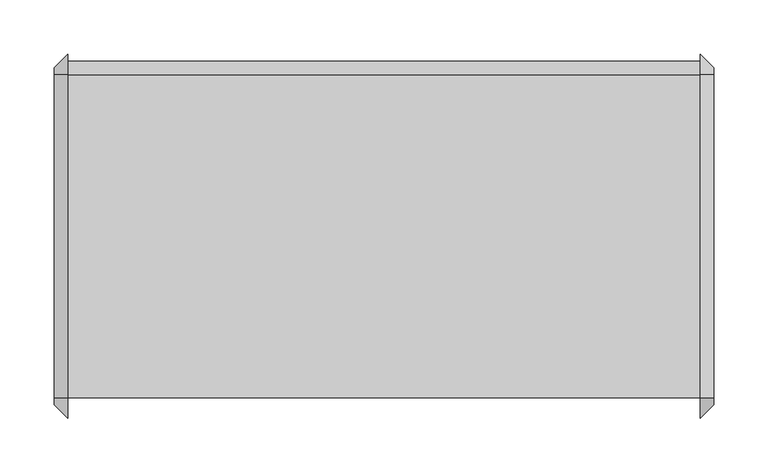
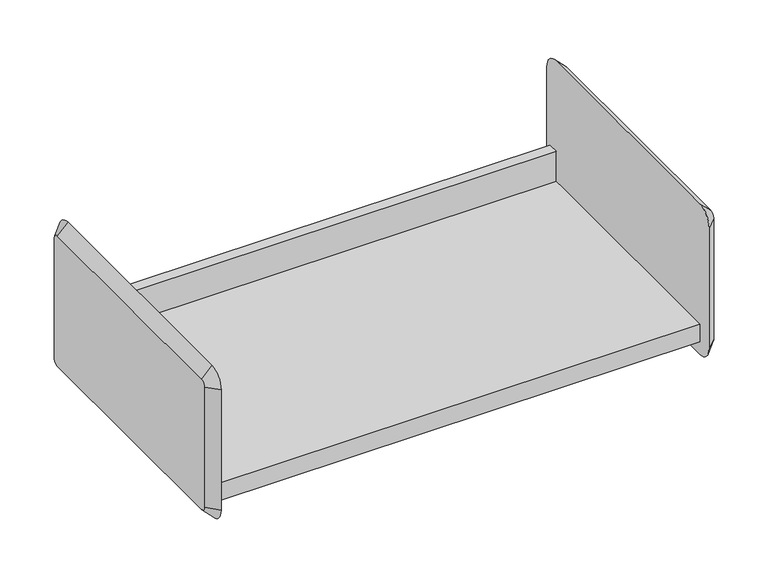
"""IFC4 building model written with IfcOpenShell, lengths in millimetres: furniture geometry."""

from ifc_helpers import new_model, si_unit, frame, origin, place, context, project, spatial, polyline, circle_curve, outline, extrude, source, transform, mapped, element, save
from ifc_brep_helpers import plane_surface, revolved_surface, advanced_brep


def furniture_899296cf(model_context):
    return source(origin(), model_context, "Body", "SolidModel", [
        extrude(outline(polyline([(-136.525, 1558.925), (161.925, 1558.925), (161.925, 1597.025), (174.625, 1597.025), (174.625, 1593.85), (165.1, 1593.85), (165.1, 1555.75), (-133.35, 1555.75), (-133.35, 1536.7), (-136.525, 1536.7), (-136.525, 1558.925)])), frame((-416.0420045, 0.0, 0.0), z_axis=(1.0, 0.0, 0.0), x_axis=(0.0, 1.0, 0.0)), (0.0, 0.0, 1.0), 584.2),
        advanced_brep(
        [(180.8579955, 161.925, 1698.625), (180.8579955, -136.525, 1698.625), (180.8579955, -142.875, 1692.275), (180.8579955, -142.875, 1539.875), (180.8579955, -136.525, 1533.525), (180.8579955, 161.925, 1533.525), (180.8579955, 168.275, 1539.875), (180.8579955, 168.275, 1692.275), (168.1579955, 161.925, 1711.325), (168.1579955, 180.975, 1692.275), (168.1579955, 180.975, 1539.875), (168.1579955, 161.925, 1520.825), (168.1579955, -136.525, 1520.825), (168.1579955, -155.575, 1539.875), (168.1579955, -155.575, 1692.275), (168.1579955, -136.525, 1711.325)],
        [
            (0, 1),
            (1, 2, circle_curve(frame((180.8579955, -136.525, 1692.275), z_axis=(1.0, 2.0730084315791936e-12, -2.1742607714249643e-12), x_axis=(2.1742640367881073e-12, 0.0, 1.0)), 6.35)),
            (2, 3),
            (3, 4, circle_curve(frame((180.8579955, -136.525, 1539.875), z_axis=(1.0, 2.062350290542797e-12, 2.025046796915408e-12), x_axis=(2.062316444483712e-12, -1.0, 0.0)), 6.35)),
            (4, 5),
            (5, 6, circle_curve(frame((180.8579955, 161.925, 1539.875), z_axis=(1.0, 2.088995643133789e-12, -2.1103119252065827e-12), x_axis=(-2.1103612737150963e-12, 0.0, -1.0)), 6.35)),
            (6, 7),
            (7, 0, circle_curve(frame((180.8579955, 161.925, 1692.275), z_axis=(1.0, 2.0783375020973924e-12, 1.9824142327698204e-12), x_axis=(-2.0783313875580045e-12, 1.0, 0.0)), 6.35)),
            (8, 9, circle_curve(frame((168.1579955, 161.925, 1692.275), z_axis=(-1.0, -2.0783375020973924e-12, -1.9824142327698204e-12), x_axis=(-2.0783313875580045e-12, 1.0, 0.0)), 19.05)),
            (9, 10),
            (10, 11, circle_curve(frame((168.1579955, 161.925, 1539.875), z_axis=(-1.0, -2.088995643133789e-12, 2.1103119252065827e-12), x_axis=(-2.1103612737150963e-12, 0.0, -1.0)), 19.05)),
            (11, 12),
            (12, 13, circle_curve(frame((168.1579955, -136.525, 1539.875), z_axis=(-1.0, -2.062350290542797e-12, -2.025046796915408e-12), x_axis=(2.062316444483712e-12, -1.0, 0.0)), 19.05)),
            (13, 14),
            (14, 15, circle_curve(frame((168.1579955, -136.525, 1692.275), z_axis=(-1.0, -2.0730084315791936e-12, 2.1742607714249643e-12), x_axis=(2.1742640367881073e-12, 0.0, 1.0)), 19.05)),
            (15, 8),
            (15, 1),
            (0, 8),
            (14, 2),
            (13, 3),
            (12, 4),
            (11, 5),
            (10, 6),
            (9, 7),
        ],
        [
            plane_surface(frame((180.8579955, 12.7, 1616.075), z_axis=(1.0, 0.0, 0.0), x_axis=(0.0, -1.0, 0.0))),
            plane_surface(frame((168.1579955, 12.7, 1616.075), z_axis=(-1.0, 0.0, 0.0), x_axis=(0.0, -1.0, 0.0))),
            plane_surface(frame((168.1579955, 12.7, 1711.325), z_axis=(0.7071067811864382, 0.0, 0.7071067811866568), x_axis=(0.0, -1.0, 0.0))),
            revolved_surface(polyline([(180.8579955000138, -136.525, 1698.6249999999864), (168.1579955, -136.525, 1711.325)]), (187.2079955, -136.525, 1692.275), (-1.0, -2.0730084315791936e-12, 2.1742607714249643e-12)),
            plane_surface(frame((168.1579955, -155.575, 1616.075), z_axis=(0.707106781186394, -0.7071067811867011, 0.0), x_axis=(0.0, 0.0, -1.0))),
            revolved_surface(polyline([(180.8579955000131, -142.87499999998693, 1539.875), (168.1579955, -155.575, 1539.875)]), (187.2079955, -136.525, 1539.875), (-1.0, -2.062350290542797e-12, -2.025046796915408e-12)),
            plane_surface(frame((168.1579955, 12.7, 1520.825), z_axis=(0.7071067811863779, 0.0, -0.7071067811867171), x_axis=(0.0, 1.0, 0.0))),
            revolved_surface(polyline([(180.8579955, 161.925, 1533.525), (168.15799549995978, 161.925, 1520.8249999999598)]), (187.2079955, 161.925, 1539.875), (-1.0, -2.088995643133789e-12, 2.1103119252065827e-12)),
            plane_surface(frame((168.1579955, 180.975, 1616.075), z_axis=(0.707106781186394, 0.7071067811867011, 0.0), x_axis=(0.0, 0.0, 1.0))),
            revolved_surface(polyline([(180.8579955, 168.27500000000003, 1692.275), (168.1579954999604, 180.97500000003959, 1692.275)]), (187.2079955, 161.925, 1692.275), (-1.0, -2.0783375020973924e-12, -1.9824142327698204e-12)),
        ],
        [
            (0, [[1, 2, 3, 4, 5, 6, 7, 8]]),
            (1, [[9, 10, 11, 12, 13, 14, 15, 16]]),
            (2, [[-16, 17, -1, 18]]),
            (3, [[-15, 19, -2, -17]]),
            (4, [[-14, 20, -3, -19]]),
            (5, [[-13, 21, -4, -20]]),
            (6, [[-12, 22, -5, -21]]),
            (7, [[-11, 23, -6, -22]]),
            (8, [[-10, 24, -7, -23]]),
            (9, [[-9, -18, -8, -24]]),
        ],
    ),
        advanced_brep(
        [(-428.7420045, -136.525, 1698.625), (-428.7420045, 161.925, 1698.625), (-428.7420045, 168.275, 1692.275), (-428.7420045, 168.275, 1539.875), (-428.7420045, 161.925, 1533.525), (-428.7420045, -136.525, 1533.525), (-428.7420045, -142.875, 1539.875), (-428.7420045, -142.875, 1692.275), (-416.0420045, -136.525, 1711.325), (-416.0420045, -155.575, 1692.275), (-416.0420045, -155.575, 1539.875), (-416.0420045, -136.525, 1520.825), (-416.0420045, 161.925, 1520.825), (-416.0420045, 180.975, 1539.875), (-416.0420045, 180.975, 1692.275), (-416.0420045, 161.925, 1711.325)],
        [
            (0, 1),
            (1, 2, circle_curve(frame((-428.7420045, 161.925, 1692.275), z_axis=(-1.0, 0.0, 0.0), x_axis=(0.0, 0.0, 1.0)), 6.35)),
            (2, 3),
            (3, 4, circle_curve(frame((-428.7420045, 161.925, 1539.875), z_axis=(-1.0, 0.0, 0.0), x_axis=(0.0, 1.0, 0.0)), 6.35)),
            (4, 5),
            (5, 6, circle_curve(frame((-428.7420045, -136.525, 1539.875), z_axis=(-1.0, 0.0, 0.0), x_axis=(0.0, 0.0, -1.0)), 6.35)),
            (6, 7),
            (7, 0, circle_curve(frame((-428.7420045, -136.525, 1692.275), z_axis=(-1.0, 0.0, 0.0), x_axis=(0.0, -1.0, 0.0)), 6.35)),
            (8, 9, circle_curve(frame((-416.0420045, -136.525, 1692.275), z_axis=(1.0, 0.0, 0.0), x_axis=(0.0, -1.0, 0.0)), 19.05)),
            (9, 10),
            (10, 11, circle_curve(frame((-416.0420045, -136.525, 1539.875), z_axis=(1.0, 0.0, 0.0), x_axis=(0.0, 0.0, -1.0)), 19.05)),
            (11, 12),
            (12, 13, circle_curve(frame((-416.0420045, 161.925, 1539.875), z_axis=(1.0, 0.0, 0.0), x_axis=(0.0, 1.0, 0.0)), 19.05)),
            (13, 14),
            (14, 15, circle_curve(frame((-416.0420045, 161.925, 1692.275), z_axis=(1.0, 0.0, 0.0), x_axis=(0.0, 0.0, 1.0)), 19.05)),
            (15, 8),
            (15, 1),
            (0, 8),
            (14, 2),
            (13, 3),
            (12, 4),
            (11, 5),
            (10, 6),
            (9, 7),
        ],
        [
            plane_surface(frame((-428.7420045, 12.7, 1616.075), z_axis=(-1.0, 0.0, 0.0), x_axis=(0.0, -1.0, 0.0))),
            plane_surface(frame((-416.0420045, 12.7, 1616.075), z_axis=(1.0, 0.0, 0.0), x_axis=(0.0, -1.0, 0.0))),
            plane_surface(frame((-416.0420045, 12.7, 1711.325), z_axis=(-0.7071067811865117, 0.0, 0.7071067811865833), x_axis=(0.0, 1.0, 0.0))),
            revolved_surface(polyline([(-428.7420045, 161.925, 1698.625), (-416.0420045, 161.925, 1711.325)]), (-435.0920045, 161.925, 1692.275), (1.0, 0.0, 0.0)),
            plane_surface(frame((-416.0420045, 180.975, 1616.075), z_axis=(-0.7071067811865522, 0.7071067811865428, 0.0), x_axis=(0.0, 0.0, -1.0))),
            revolved_surface(polyline([(-428.7420045, 168.27499999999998, 1539.875), (-416.0420045, 180.975, 1539.875)]), (-435.0920045, 161.925, 1539.875), (1.0, 0.0, 0.0)),
            plane_surface(frame((-416.0420045, 12.7, 1520.825), z_axis=(-0.7071067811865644, 0.0, -0.7071067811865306), x_axis=(0.0, -1.0, 0.0))),
            revolved_surface(polyline([(-428.7420045, -136.525, 1533.525), (-416.0420045, -136.525, 1520.825)]), (-435.0920045, -136.525, 1539.875), (1.0, 0.0, 0.0)),
            plane_surface(frame((-416.0420045, -155.575, 1616.075), z_axis=(-0.7071067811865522, -0.7071067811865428, 0.0), x_axis=(0.0, 0.0, 1.0))),
            revolved_surface(polyline([(-428.7420045, -142.87499999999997, 1692.275), (-416.0420045, -155.575, 1692.275)]), (-435.0920045, -136.525, 1692.275), (1.0, 0.0, 0.0)),
        ],
        [
            (0, [[1, 2, 3, 4, 5, 6, 7, 8]]),
            (1, [[9, 10, 11, 12, 13, 14, 15, 16]]),
            (2, [[-16, 17, -1, 18]]),
            (3, [[-15, 19, -2, -17]]),
            (4, [[-14, 20, -3, -19]]),
            (5, [[-13, 21, -4, -20]]),
            (6, [[-12, 22, -5, -21]]),
            (7, [[-11, 23, -6, -22]]),
            (8, [[-10, 24, -7, -23]]),
            (9, [[-9, -18, -8, -24]]),
        ],
    ),
    ])


if __name__ == "__main__":
    model = new_model("IFC4")
    model_context = context("Model", 3, world=origin())
    ifc_project = project(units=[si_unit("LENGTHUNIT", "METRE", prefix="MILLI")], contexts=[model_context])
    site = spatial("IfcSite", under=ifc_project)
    building = spatial("IfcBuilding", under=site)
    placement = place(None, origin())
    furniture_shape = furniture_899296cf(model_context)
    element("IfcFurniture", 1, ObjectType="HermanMiller_ActionOffice_A3220_B-StyleStorageDisplay : Shelf 13\"D x 24\"W", at=placement, inside=building, context=model_context, shape_type="MappedRepresentation", body=[
        mapped(furniture_shape, transform((0.0, 0.0, 0.0), x_axis=(1.0, 0.0, 0.0), y_axis=(0.0, 1.0, 0.0), z_axis=(0.0, 0.0, 1.0))),
    ])
    save(model, "model.ifc")
